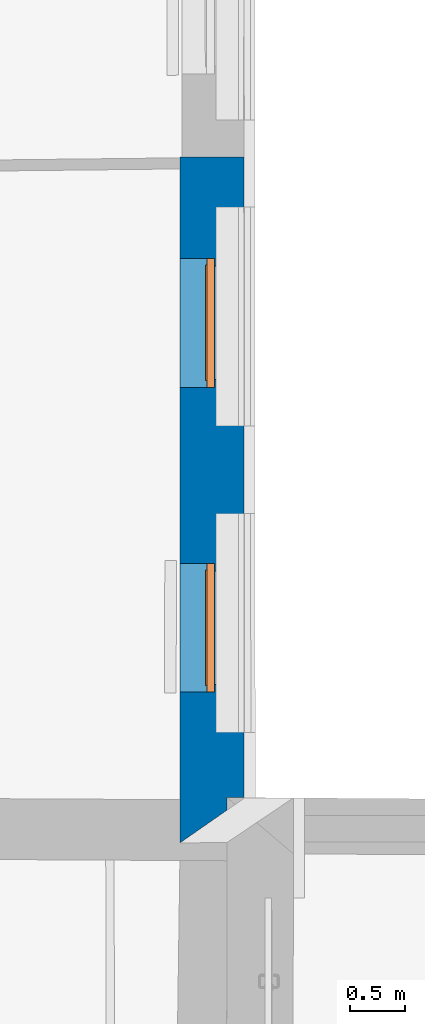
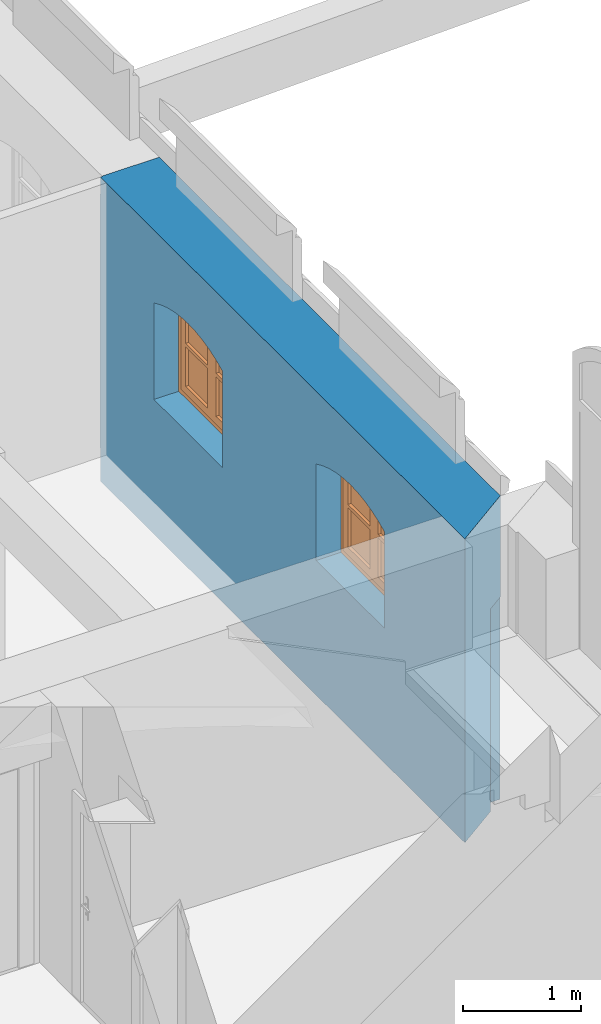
# One storey, part 69 of 196: 2 proxies, 1 wall, 2 openings.
"""IFC2X3 building model written with IfcOpenShell, lengths in metres."""

from ifc_helpers import new_model, entity, si_unit, converted_unit, derived_unit, money_unit, direction, frame, origin_with_axes, place, context, subcontext, project, spatial, polyline, outline, extrude, boolean, faceted_brep, source, transform, mapped, material, type_object, element, fill, save


model = new_model("IFC2X3")

# Units and contexts
model_context = context("Model", 3, precision=1e-05, world=origin_with_axes(), true_north=direction((0.0, 1.0)))
body_context = subcontext(model_context, "Body", "Model", "MODEL_VIEW")
ifc_project = project(units=[si_unit("LENGTHUNIT", "METRE"), si_unit("AREAUNIT", "SQUARE_METRE"), si_unit("VOLUMEUNIT", "CUBIC_METRE"), converted_unit("PLANEANGLEUNIT", "DEGREE", entity("IfcPlaneAngleMeasure", 0.0174532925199), si_unit("PLANEANGLEUNIT", "RADIAN"), dimensions=[0, 0, 0, 0, 0, 0, 0]), money_unit("EUR"), converted_unit("TIMEUNIT", "Year", entity("IfcTimeMeasure", 31556926.0), si_unit("TIMEUNIT", "SECOND"), dimensions=[0, 0, 1, 0, 0, 0, 0]), si_unit("MASSUNIT", "GRAM", prefix="KILO"), si_unit("THERMODYNAMICTEMPERATUREUNIT", "DEGREE_CELSIUS"), si_unit("LUMINOUSINTENSITYUNIT", "LUMEN"), si_unit("ENERGYUNIT", "JOULE", prefix="MEGA"), derived_unit("THERMALCONDUCTANCEUNIT", [(si_unit("POWERUNIT", "WATT"), 1), (si_unit("LENGTHUNIT", "METRE"), -1), (si_unit("THERMODYNAMICTEMPERATUREUNIT", "KELVIN"), -1)]), derived_unit("SPECIFICHEATCAPACITYUNIT", [(si_unit("ENERGYUNIT", "JOULE"), 1), (si_unit("MASSUNIT", "GRAM", prefix="KILO"), -1), (si_unit("THERMODYNAMICTEMPERATUREUNIT", "KELVIN"), -1)]), derived_unit("MASSDENSITYUNIT", [(si_unit("MASSUNIT", "GRAM", prefix="KILO"), 1), (si_unit("VOLUMEUNIT", "CUBIC_METRE"), -1)])], contexts=[model_context])

# Site, building, storey
site_placement = place(None, origin_with_axes())
site = spatial("IfcSite", under=ifc_project, at=site_placement, Name="Gelände", CompositionType="ELEMENT")
building_placement = place(site_placement, origin_with_axes())
building = spatial("IfcBuilding", under=site, at=building_placement, Name="Gebäude", CompositionType="ELEMENT")
storey_placement = place(building_placement, frame((0.0, 0.0, -3.0), z_axis=(0.0, 0.0, 1.0), x_axis=(1.0, 0.0, 0.0)))
storey = spatial("IfcBuildingStorey", under=building, at=storey_placement, Name="KELLERGESCHOSS", CompositionType="ELEMENT", Elevation=-3.0)

# Wall, openings, proxies
ifc_material = material(Name="05_ALLGEMEIN - TRAGENDE BAUTEILE")
wall_type = type_object("IfcWallType", Name="05_ALLGEMEIN - TRAGENDE BAUTEILE 580", PredefinedType="ELEMENTEDWALL")
wall_placement = place(storey_placement, frame((31.6770990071, 19.8019123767, -0.36), z_axis=(0.0, 0.0, 1.0), x_axis=(-0.000336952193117, 0.999999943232, 0.0)))
wall = element("IfcWall", 1, at=wall_placement, inside=storey, type_object=wall_type, material=ifc_material, Name="Wand-038", ObjectType="ELEMENTEDWALL", context=body_context, shape_type="CSG", body=[
    boolean("DIFFERENCE", boolean("DIFFERENCE", boolean("DIFFERENCE", extrude(outline(polyline([(-0.402913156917, 0.0), (5.78764100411, 0.0), (5.78764100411, 0.58), (-0.402913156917, 0.58), (-0.402913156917, 0.0)])), origin_with_axes(), (0.0, 0.0, 1.0), 3.15), faceted_brep([(5.78764100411, 0.560000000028, 0.34), (5.78764100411, 0.560000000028, 0.0), (5.78764100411, 0.58, 0.0), (5.78764100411, 0.58, 0.34), (5.78153003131, 0.559999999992, 0.34), (5.78153003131, 0.559999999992, 0.0), (5.78131178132, 0.58, 0.0), (5.78131178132, 0.58, 0.34)], [[[0, 1, 2, 3]], [[1, 0, 4, 5]], [[5, 6, 2, 1]], [[7, 3, 2, 6]], [[0, 3, 7, 4]], [[6, 5, 4, 7]]])), faceted_brep([(5.78131178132, 0.58, 3.15), (5.78153003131, 0.559999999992, 3.15), (5.78764100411, 0.559999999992, 3.15), (5.78764100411, 0.58, 3.15), (5.78131178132, 0.58, 2.97), (5.78153003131, 0.559999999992, 2.97), (5.78764100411, 0.559999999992, 2.97), (5.78764100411, 0.58, 2.97)], [[[0, 1, 2, 3]], [[1, 0, 4, 5]], [[6, 2, 1, 5]], [[6, 7, 3, 2]], [[4, 0, 3, 7]], [[7, 6, 5, 4]]])), faceted_brep([(0.0, 0.0, 2.1), (0.0, 0.0, 3.15), (-0.402913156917, 0.0, 3.15), (-0.402913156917, 0.0, 0.0), (0.00546026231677, 0.0, 0.0), (0.00546026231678, 0.0, 2.1), (-0.402913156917, 0.58, 3.15), (-0.10869698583, 0.156471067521, 2.1), (-0.10869698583, 0.156471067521, 0.0), (-0.402913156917, 0.58, 0.0), (0.00660056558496, 0.156344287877, 0.0), (0.00660056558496, 0.156344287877, 2.1), (-0.000783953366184, 0.156352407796, 2.1)], [[[0, 1, 2, 3, 4, 5]], [[6, 1, 0, 7, 8, 9]], [[1, 6, 2]], [[6, 9, 3, 2]], [[10, 4, 3, 9, 8]], [[5, 4, 10, 11]], [[0, 5, 11, 12, 7]], [[10, 8, 7, 12, 11]]])),
])
opening_1_placement = place(wall_placement, frame((1.5391521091, 0.0, 1.39579666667), z_axis=(0.0, 0.0, 1.0), x_axis=(1.0, 0.0, 0.0)))
opening_1 = element("IfcOpeningElement", 2, at=opening_1_placement, cuts=wall, Name="Fenster-015", context=body_context, shape_type="SweptSolid", body=[
    extrude(outline(polyline([(0.581905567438, 0.0), (0.581905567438, 1.0), (0.471737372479, 1.04926610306), (0.357452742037, 1.08803726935), (0.240048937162, 1.11597517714), (0.120550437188, 1.13283603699), (0.0, 1.13847271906), (-0.120550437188, 1.13283603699), (-0.240048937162, 1.11597517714), (-0.357452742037, 1.08803726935), (-0.471737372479, 1.04926610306), (-0.581905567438, 1.0), (-0.581905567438, 0.0), (0.581905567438, 0.0)])), frame((0.0, 0.266646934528, 0.0), z_axis=(0.0, -1.0, 0.0), x_axis=(1.0, 0.0, 0.0)), (0.0, 0.0, -1.0), 0.893353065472),
    extrude(outline(polyline([(-0.511905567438, 0.0), (-0.511905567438, -0.956074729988), (-0.389248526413, -1.00481559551), (-0.262049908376, -1.04004247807), (-0.131793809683, -1.0613443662), (0.0, -1.06847271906), (0.131793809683, -1.0613443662), (0.262049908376, -1.04004247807), (0.389248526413, -1.00481559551), (0.511905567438, -0.956074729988), (0.511905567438, 0.0), (-0.511905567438, 0.0)])), frame((0.0, 0.266646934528, 0.0), z_axis=(0.0, 1.0, 0.0), x_axis=(1.0, 0.0, 0.0)), (0.0, 0.0, -1.0), 0.846646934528),
])
opening_2_placement = place(wall_placement, frame((4.29162690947, 0.0, 1.39579666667), z_axis=(0.0, 0.0, 1.0), x_axis=(1.0, 0.0, 0.0)))
opening_2 = element("IfcOpeningElement", 3, at=opening_2_placement, cuts=wall, Name="Fenster-015", context=body_context, shape_type="SweptSolid", body=[
    extrude(outline(polyline([(0.581905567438, 0.0), (0.581905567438, 1.0), (0.471737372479, 1.04926610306), (0.357452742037, 1.08803726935), (0.240048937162, 1.11597517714), (0.120550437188, 1.13283603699), (0.0, 1.13847271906), (-0.120550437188, 1.13283603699), (-0.240048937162, 1.11597517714), (-0.357452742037, 1.08803726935), (-0.471737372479, 1.04926610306), (-0.581905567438, 1.0), (-0.581905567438, 0.0), (0.581905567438, 0.0)])), frame((0.0, 0.266646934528, 0.0), z_axis=(0.0, -1.0, 0.0), x_axis=(1.0, 0.0, 0.0)), (0.0, 0.0, -1.0), 0.893353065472),
    extrude(outline(polyline([(-0.511905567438, 0.0), (-0.511905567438, -0.956074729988), (-0.389248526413, -1.00481559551), (-0.262049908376, -1.04004247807), (-0.131793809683, -1.0613443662), (0.0, -1.06847271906), (0.131793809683, -1.0613443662), (0.262049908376, -1.04004247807), (0.389248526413, -1.00481559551), (0.511905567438, -0.956074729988), (0.511905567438, 0.0), (-0.511905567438, 0.0)])), frame((0.0, 0.266646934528, 0.0), z_axis=(0.0, 1.0, 0.0), x_axis=(1.0, 0.0, 0.0)), (0.0, 0.0, -1.0), 0.846646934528),
])
building_element_proxy_type = type_object("IfcBuildingElementProxyType", Name="F Segment-Abschluss 2-Fl 25", PredefinedType="NOTDEFINED")
shared_shape = source(origin_with_axes(), body_context, "Body", "Brep", [
    faceted_brep([(-0.581905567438, -0.07, 0.0), (-0.581905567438, -0.035, 0.0), (-0.501905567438, -0.035, 0.08), (-0.501905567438, -0.07, 0.08), (-0.581905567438, -0.07, 1.0), (-0.581905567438, -0.035, 1.0), (-0.501905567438, -0.035, 0.949656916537), (-0.501905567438, -0.07, 0.949656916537)], [[[0, 1, 2, 3]], [[4, 5, 1, 0]], [[1, 5, 6, 2]], [[3, 2, 6, 7]], [[0, 3, 7, 4]], [[7, 6, 5, 4]]]),
    faceted_brep([(0.581905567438, -0.07, 0.0), (0.501905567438, -0.07, 0.08), (0.501905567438, -0.035, 0.08), (0.581905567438, -0.035, 0.0), (0.581905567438, -0.07, 1.0), (0.501905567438, -0.07, 0.949656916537), (0.501905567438, -0.035, 0.949656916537), (0.581905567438, -0.035, 1.0)], [[[0, 1, 2, 3]], [[0, 4, 5, 1]], [[1, 5, 6, 2]], [[3, 2, 6, 7]], [[4, 0, 3, 7]], [[5, 4, 7, 6]]]),
    faceted_brep([(-0.581905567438, -0.07, 0.0), (-0.581905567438, -0.035, 0.0), (0.581905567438, -0.035, 0.0), (0.581905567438, -0.07, 0.0), (-0.501905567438, -0.07, 0.08), (-0.501905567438, -0.035, 0.08), (0.501905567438, -0.035, 0.08), (0.501905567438, -0.07, 0.08)], [[[0, 1, 2, 3]], [[4, 5, 1, 0]], [[1, 5, 6, 2]], [[3, 2, 6, 7]], [[0, 3, 7, 4]], [[7, 6, 5, 4]]]),
    faceted_brep([(0.502005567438, -0.07, 0.949656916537), (0.502005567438, -0.035, 0.949656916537), (0.581905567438, -0.035, 1.0), (0.581905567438, -0.07, 1.0), (0.501905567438, -0.07, 0.949656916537), (0.501905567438, -0.035, 0.949656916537), (0.381516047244, -0.035, 0.996854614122), (0.25678302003, -0.035, 1.03095639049), (0.129126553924, -0.035, 1.05157400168), (0.0, -0.035, 1.05847271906), (0.0, -0.035, 1.05857271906), (0.0, -0.035, 1.13847271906), (0.120550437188, -0.035, 1.13283603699), (0.240048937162, -0.035, 1.11597517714), (0.357452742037, -0.035, 1.08803726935), (0.471737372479, -0.035, 1.04926610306), (0.471737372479, -0.07, 1.04926610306), (0.357452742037, -0.07, 1.08803726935), (0.240048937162, -0.07, 1.11597517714), (0.120550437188, -0.07, 1.13283603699), (0.0, -0.07, 1.13847271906), (0.0, -0.07, 1.05857271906), (0.0, -0.07, 1.05847271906), (0.129126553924, -0.07, 1.05157400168), (0.25678302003, -0.07, 1.03095639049), (0.381516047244, -0.07, 0.996854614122)], [[[0, 1, 2, 3]], [[4, 5, 1, 0]], [[1, 5, 6, 7, 8, 9, 10, 11, 12, 13, 14, 15, 2]], [[3, 2, 15, 16]], [[0, 3, 16, 17, 18, 19, 20, 21, 22, 23, 24, 25, 4]], [[25, 6, 5, 4]], [[24, 7, 6, 25]], [[23, 8, 7, 24]], [[22, 9, 8, 23]], [[21, 10, 9, 22]], [[20, 11, 10, 21]], [[19, 12, 11, 20]], [[18, 13, 12, 19]], [[17, 14, 13, 18]], [[16, 15, 14, 17]]]),
    faceted_brep([(-0.502005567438, -0.07, 0.949656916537), (-0.581905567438, -0.07, 1.0), (-0.581905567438, -0.035, 1.0), (-0.502005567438, -0.035, 0.949656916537), (-0.501905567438, -0.07, 0.949656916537), (-0.381516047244, -0.07, 0.996854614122), (-0.25678302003, -0.07, 1.03095639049), (-0.129126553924, -0.07, 1.05157400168), (0.0, -0.07, 1.05847271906), (0.0, -0.07, 1.05857271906), (0.0, -0.07, 1.13847271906), (-0.120550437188, -0.07, 1.13283603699), (-0.240048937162, -0.07, 1.11597517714), (-0.357452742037, -0.07, 1.08803726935), (-0.471737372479, -0.07, 1.04926610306), (-0.471737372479, -0.035, 1.04926610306), (-0.357452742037, -0.035, 1.08803726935), (-0.240048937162, -0.035, 1.11597517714), (-0.120550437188, -0.035, 1.13283603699), (0.0, -0.035, 1.13847271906), (0.0, -0.035, 1.05857271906), (0.0, -0.035, 1.05847271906), (-0.129126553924, -0.035, 1.05157400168), (-0.25678302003, -0.035, 1.03095639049), (-0.381516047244, -0.035, 0.996854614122), (-0.501905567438, -0.035, 0.949656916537)], [[[0, 1, 2, 3]], [[0, 4, 5, 6, 7, 8, 9, 10, 11, 12, 13, 14, 1]], [[1, 14, 15, 2]], [[3, 2, 15, 16, 17, 18, 19, 20, 21, 22, 23, 24, 25]], [[4, 0, 3, 25]], [[5, 4, 25, 24]], [[6, 5, 24, 23]], [[7, 6, 23, 22]], [[8, 7, 22, 21]], [[9, 8, 21, 20]], [[10, 9, 20, 19]], [[11, 10, 19, 18]], [[12, 11, 18, 17]], [[13, 12, 17, 16]], [[14, 13, 16, 15]]]),
    faceted_brep([(-0.581905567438, -0.035, 0.0), (-0.581905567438, 0.0, 0.0), (-0.501905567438, 0.0, 0.08), (-0.501905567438, -0.035, 0.08), (-0.581905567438, -0.035, 1.0), (-0.581905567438, 0.0, 1.0), (-0.501905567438, 0.0, 0.949656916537), (-0.501905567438, -0.035, 0.949656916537)], [[[0, 1, 2, 3]], [[4, 5, 1, 0]], [[1, 5, 6, 2]], [[3, 2, 6, 7]], [[0, 3, 7, 4]], [[7, 6, 5, 4]]]),
    faceted_brep([(0.581905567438, -0.035, 0.0), (0.501905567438, -0.035, 0.08), (0.501905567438, 0.0, 0.08), (0.581905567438, 0.0, 0.0), (0.581905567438, -0.035, 1.0), (0.501905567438, -0.035, 0.949656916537), (0.501905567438, 0.0, 0.949656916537), (0.581905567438, 0.0, 1.0)], [[[0, 1, 2, 3]], [[0, 4, 5, 1]], [[1, 5, 6, 2]], [[3, 2, 6, 7]], [[4, 0, 3, 7]], [[5, 4, 7, 6]]]),
    faceted_brep([(-0.581905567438, -0.035, 0.0), (-0.581905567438, 0.0, 0.0), (0.581905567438, 0.0, 0.0), (0.581905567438, -0.035, 0.0), (-0.501905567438, -0.035, 0.08), (-0.501905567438, 0.0, 0.08), (0.501905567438, 0.0, 0.08), (0.501905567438, -0.035, 0.08)], [[[0, 1, 2, 3]], [[4, 5, 1, 0]], [[1, 5, 6, 2]], [[3, 2, 6, 7]], [[0, 3, 7, 4]], [[7, 6, 5, 4]]]),
    faceted_brep([(0.502005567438, -0.035, 0.949656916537), (0.502005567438, 0.0, 0.949656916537), (0.581905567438, 0.0, 1.0), (0.581905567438, -0.035, 1.0), (0.501905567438, -0.035, 0.949656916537), (0.501905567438, 0.0, 0.949656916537), (0.381516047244, 0.0, 0.996854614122), (0.25678302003, 0.0, 1.03095639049), (0.129126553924, 0.0, 1.05157400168), (0.0, 0.0, 1.05847271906), (0.0, 0.0, 1.05857271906), (0.0, 0.0, 1.13847271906), (0.120550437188, 0.0, 1.13283603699), (0.240048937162, 0.0, 1.11597517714), (0.357452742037, 0.0, 1.08803726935), (0.471737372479, 0.0, 1.04926610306), (0.471737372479, -0.035, 1.04926610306), (0.357452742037, -0.035, 1.08803726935), (0.240048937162, -0.035, 1.11597517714), (0.120550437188, -0.035, 1.13283603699), (0.0, -0.035, 1.13847271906), (0.0, -0.035, 1.05857271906), (0.0, -0.035, 1.05847271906), (0.129126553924, -0.035, 1.05157400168), (0.25678302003, -0.035, 1.03095639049), (0.381516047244, -0.035, 0.996854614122)], [[[0, 1, 2, 3]], [[4, 5, 1, 0]], [[1, 5, 6, 7, 8, 9, 10, 11, 12, 13, 14, 15, 2]], [[3, 2, 15, 16]], [[0, 3, 16, 17, 18, 19, 20, 21, 22, 23, 24, 25, 4]], [[25, 6, 5, 4]], [[24, 7, 6, 25]], [[23, 8, 7, 24]], [[22, 9, 8, 23]], [[21, 10, 9, 22]], [[20, 11, 10, 21]], [[19, 12, 11, 20]], [[18, 13, 12, 19]], [[17, 14, 13, 18]], [[16, 15, 14, 17]]]),
    faceted_brep([(-0.502005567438, -0.035, 0.949656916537), (-0.581905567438, -0.035, 1.0), (-0.581905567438, 0.0, 1.0), (-0.502005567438, 0.0, 0.949656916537), (-0.501905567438, -0.035, 0.949656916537), (-0.381516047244, -0.035, 0.996854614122), (-0.25678302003, -0.035, 1.03095639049), (-0.129126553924, -0.035, 1.05157400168), (0.0, -0.035, 1.05847271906), (0.0, -0.035, 1.05857271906), (0.0, -0.035, 1.13847271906), (-0.120550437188, -0.035, 1.13283603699), (-0.240048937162, -0.035, 1.11597517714), (-0.357452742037, -0.035, 1.08803726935), (-0.471737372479, -0.035, 1.04926610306), (-0.471737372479, 0.0, 1.04926610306), (-0.357452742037, 0.0, 1.08803726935), (-0.240048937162, 0.0, 1.11597517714), (-0.120550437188, 0.0, 1.13283603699), (0.0, 0.0, 1.13847271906), (0.0, 0.0, 1.05857271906), (0.0, 0.0, 1.05847271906), (-0.129126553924, 0.0, 1.05157400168), (-0.25678302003, 0.0, 1.03095639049), (-0.381516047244, 0.0, 0.996854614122), (-0.501905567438, 0.0, 0.949656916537)], [[[0, 1, 2, 3]], [[0, 4, 5, 6, 7, 8, 9, 10, 11, 12, 13, 14, 1]], [[1, 14, 15, 2]], [[3, 2, 15, 16, 17, 18, 19, 20, 21, 22, 23, 24, 25]], [[4, 0, 3, 25]], [[5, 4, 25, 24]], [[6, 5, 24, 23]], [[7, 6, 23, 22]], [[8, 7, 22, 21]], [[9, 8, 21, 20]], [[10, 9, 20, 19]], [[11, 10, 19, 18]], [[12, 11, 18, 17]], [[13, 12, 17, 16]], [[14, 13, 16, 15]]]),
    faceted_brep([(-0.521905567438, 0.0, 0.06), (-0.521905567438, 0.013, 0.06), (-0.441905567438, 0.013, 0.14), (-0.441905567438, 0.0, 0.14), (-0.521905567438, 0.0, 0.962455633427), (-0.521905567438, 0.013, 0.962455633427), (-0.441905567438, 0.013, 0.910337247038), (-0.441905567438, 0.0, 0.910337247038)], [[[0, 1, 2, 3]], [[4, 5, 1, 0]], [[1, 5, 6, 2]], [[3, 2, 6, 7]], [[0, 3, 7, 4]], [[7, 6, 5, 4]]]),
    faceted_brep([(-0.01, 0.0, 0.06), (-0.01, 0.013, 0.06), (-0.01, 0.013, 1.07843213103), (-0.01, 0.0, 1.07843213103), (-0.07, 0.0, 0.14), (-0.07, 0.013, 0.14), (-0.07, 0.013, 0.99634385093), (-0.07, 0.0, 0.99634385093)], [[[0, 1, 2, 3]], [[4, 5, 1, 0]], [[1, 5, 6, 2]], [[3, 2, 6, 7]], [[0, 3, 7, 4]], [[7, 6, 5, 4]]]),
    faceted_brep([(-0.521905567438, 0.0, 0.06), (-0.521905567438, 0.013, 0.06), (-0.501905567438, 0.013, 0.06), (-0.501905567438, 0.0, 0.06), (-0.441905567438, 0.0, 0.14), (-0.441905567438, 0.013, 0.14), (-0.07, 0.013, 0.14), (-0.01, 0.013, 0.06), (-0.01, 0.0, 0.06), (-0.07, 0.0, 0.14)], [[[0, 1, 2, 3]], [[4, 5, 1, 0]], [[1, 5, 6, 7, 2]], [[3, 2, 7, 8]], [[0, 3, 8, 9, 4]], [[9, 6, 5, 4]], [[8, 7, 6, 9]]]),
    faceted_brep([(-0.501905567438, 0.0, 0.949656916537), (-0.501905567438, 0.013, 0.949656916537), (-0.441905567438, 0.013, 0.910337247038), (-0.441905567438, 0.0, 0.910337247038), (-0.521905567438, 0.0, 0.962455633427), (-0.521905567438, 0.013, 0.962455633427), (-0.424276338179, 0.013, 1.0031058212), (-0.323520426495, 0.013, 1.0352329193), (-0.220380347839, 0.013, 1.05860016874), (-0.115616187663, 0.013, 1.07303536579), (-0.01, 0.013, 1.07843213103), (-0.07, 0.013, 0.99634385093), (-0.165342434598, 0.013, 0.98654453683), (-0.259540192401, 0.013, 0.968853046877), (-0.351941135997, 0.013, 0.943391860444), (-0.351941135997, 0.0, 0.943391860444), (-0.259540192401, 0.0, 0.968853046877), (-0.165342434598, 0.0, 0.98654453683), (-0.07, 0.0, 0.99634385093), (-0.01, 0.0, 1.07843213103), (-0.115616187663, 0.0, 1.07303536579), (-0.220380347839, 0.0, 1.05860016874), (-0.323520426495, 0.0, 1.0352329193), (-0.424276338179, 0.0, 1.0031058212)], [[[0, 1, 2, 3]], [[4, 5, 1, 0]], [[1, 5, 6, 7, 8, 9, 10, 11, 12, 13, 14, 2]], [[3, 2, 14, 15]], [[0, 3, 15, 16, 17, 18, 19, 20, 21, 22, 23, 4]], [[23, 6, 5, 4]], [[22, 7, 6, 23]], [[21, 8, 7, 22]], [[20, 9, 8, 21]], [[19, 10, 9, 20]], [[18, 11, 10, 19]], [[17, 12, 11, 18]], [[16, 13, 12, 17]], [[15, 14, 13, 16]]]),
    faceted_brep([(-0.501905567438, -0.057, 0.08), (-0.501905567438, 0.0, 0.08), (-0.441905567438, 0.0, 0.14), (-0.441905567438, -0.057, 0.14), (-0.501905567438, -0.057, 0.949656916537), (-0.501905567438, 0.0, 0.949656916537), (-0.441905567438, 0.0, 0.910337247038), (-0.441905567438, -0.057, 0.910337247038)], [[[0, 1, 2, 3]], [[4, 5, 1, 0]], [[1, 5, 6, 2]], [[3, 2, 6, 7]], [[0, 3, 7, 4]], [[7, 6, 5, 4]]]),
    faceted_brep([(0.01, -0.057, 0.08), (0.01, 0.0, 0.08), (0.01, 0.0, 1.05843146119), (0.01, -0.057, 1.05843146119), (-0.07, -0.057, 0.14), (-0.07, 0.0, 0.14), (-0.07, 0.0, 0.99634385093), (-0.07, -0.057, 0.99634385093)], [[[0, 1, 2, 3]], [[4, 5, 1, 0]], [[1, 5, 6, 2]], [[3, 2, 6, 7]], [[0, 3, 7, 4]], [[7, 6, 5, 4]]]),
    faceted_brep([(-0.501905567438, -0.057, 0.08), (-0.501905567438, 0.0, 0.08), (-0.01, 0.0, 0.08), (-0.01, -0.057, 0.08), (-0.441905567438, -0.057, 0.14), (-0.441905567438, 0.0, 0.14), (-0.07, 0.0, 0.14), (0.01, 0.0, 0.08), (0.01, -0.057, 0.08), (-0.07, -0.057, 0.14)], [[[0, 1, 2, 3]], [[4, 5, 1, 0]], [[1, 5, 6, 7, 2]], [[3, 2, 7, 8]], [[0, 3, 8, 9, 4]], [[9, 6, 5, 4]], [[8, 7, 6, 9]]]),
    faceted_brep([(-0.501905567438, -0.057, 0.949656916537), (-0.501905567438, 0.0, 0.949656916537), (-0.441905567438, 0.0, 0.910337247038), (-0.441905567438, -0.057, 0.910337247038), (-0.4041010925, -0.057, 0.989116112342), (-0.4041010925, 0.0, 0.989116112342), (-0.303236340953, 0.0, 1.01992269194), (-0.20007516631, 0.0, 1.04184335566), (-0.0953988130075, 0.0, 1.05471209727), (0.01, 0.0, 1.05843146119), (-0.07, 0.0, 0.99634385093), (-0.165342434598, 0.0, 0.98654453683), (-0.259540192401, 0.0, 0.968853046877), (-0.351941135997, 0.0, 0.943391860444), (-0.351941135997, -0.057, 0.943391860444), (-0.259540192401, -0.057, 0.968853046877), (-0.165342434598, -0.057, 0.98654453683), (-0.07, -0.057, 0.99634385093), (0.01, -0.057, 1.05843146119), (-0.0953988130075, -0.057, 1.05471209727), (-0.20007516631, -0.057, 1.04184335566), (-0.303236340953, -0.057, 1.01992269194)], [[[0, 1, 2, 3]], [[4, 5, 1, 0]], [[1, 5, 6, 7, 8, 9, 10, 11, 12, 13, 2]], [[3, 2, 13, 14]], [[0, 3, 14, 15, 16, 17, 18, 19, 20, 21, 4]], [[21, 6, 5, 4]], [[20, 7, 6, 21]], [[19, 8, 7, 20]], [[18, 9, 8, 19]], [[17, 10, 9, 18]], [[16, 11, 10, 17]], [[15, 12, 11, 16]], [[14, 13, 12, 15]]]),
    faceted_brep([(-0.441905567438, -0.027, 0.14), (-0.441905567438, -0.017, 0.14), (-0.07, -0.017, 0.14), (-0.07, -0.027, 0.14), (-0.441905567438, -0.027, 0.910337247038), (-0.441905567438, -0.017, 0.910337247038), (-0.351941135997, -0.017, 0.943391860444), (-0.259540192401, -0.017, 0.968853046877), (-0.165342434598, -0.017, 0.98654453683), (-0.07, -0.017, 0.99634385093), (-0.07, -0.027, 0.99634385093), (-0.165342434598, -0.027, 0.98654453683), (-0.259540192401, -0.027, 0.968853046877), (-0.351941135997, -0.027, 0.943391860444)], [[[0, 1, 2, 3]], [[4, 5, 1, 0]], [[1, 5, 6, 7, 8, 9, 2]], [[3, 2, 9, 10]], [[0, 3, 10, 11, 12, 13, 4]], [[13, 6, 5, 4]], [[12, 7, 6, 13]], [[11, 8, 7, 12]], [[10, 9, 8, 11]]]),
    faceted_brep([(-0.441905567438, -0.057, 0.550671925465), (-0.441905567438, -0.022, 0.550671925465), (-0.07, -0.022, 0.550671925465), (-0.07, -0.057, 0.550671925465), (-0.441905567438, -0.057, 0.585671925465), (-0.441905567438, -0.022, 0.585671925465), (-0.07, -0.022, 0.585671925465), (-0.07, -0.057, 0.585671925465)], [[[0, 1, 2, 3]], [[4, 5, 1, 0]], [[1, 5, 6, 2]], [[3, 2, 6, 7]], [[0, 3, 7, 4]], [[7, 6, 5, 4]]]),
    faceted_brep([(-0.441905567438, -0.022, 0.550671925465), (-0.441905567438, 0.013, 0.550671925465), (-0.07, 0.013, 0.550671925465), (-0.07, -0.022, 0.550671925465), (-0.441905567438, -0.022, 0.585671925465), (-0.441905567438, 0.013, 0.585671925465), (-0.07, 0.013, 0.585671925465), (-0.07, -0.022, 0.585671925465)], [[[0, 1, 2, 3]], [[4, 5, 1, 0]], [[1, 5, 6, 2]], [[3, 2, 6, 7]], [[0, 3, 7, 4]], [[7, 6, 5, 4]]]),
    faceted_brep([(0.521905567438, 0.0, 0.06), (0.441905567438, 0.0, 0.14), (0.441905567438, 0.013, 0.14), (0.521905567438, 0.013, 0.06), (0.521905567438, 0.0, 0.962455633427), (0.441905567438, 0.0, 0.910337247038), (0.441905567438, 0.013, 0.910337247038), (0.521905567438, 0.013, 0.962455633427)], [[[0, 1, 2, 3]], [[0, 4, 5, 1]], [[1, 5, 6, 2]], [[3, 2, 6, 7]], [[4, 0, 3, 7]], [[5, 4, 7, 6]]]),
    faceted_brep([(-0.01, 0.0, 0.06), (-0.01, 0.0, 1.07843213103), (-0.01, 0.013, 1.07843213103), (-0.01, 0.013, 0.06), (0.07, 0.0, 0.14), (0.07, 0.0, 0.99634385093), (0.07, 0.013, 0.99634385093), (0.07, 0.013, 0.14)], [[[0, 1, 2, 3]], [[0, 4, 5, 1]], [[1, 5, 6, 2]], [[3, 2, 6, 7]], [[4, 0, 3, 7]], [[5, 4, 7, 6]]]),
    faceted_brep([(0.521905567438, 0.0, 0.06), (0.501905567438, 0.0, 0.06), (0.501905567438, 0.013, 0.06), (0.521905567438, 0.013, 0.06), (0.441905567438, 0.0, 0.14), (0.07, 0.0, 0.14), (-0.01, 0.0, 0.06), (0.01, 0.0, 0.06), (0.01, 0.013, 0.06), (-0.01, 0.013, 0.06), (0.07, 0.013, 0.14), (0.441905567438, 0.013, 0.14)], [[[0, 1, 2, 3]], [[0, 4, 5, 6, 7, 1]], [[1, 7, 8, 2]], [[3, 2, 8, 9, 10, 11]], [[4, 0, 3, 11]], [[5, 4, 11, 10]], [[6, 5, 10, 9]], [[7, 6, 9, 8]]]),
    faceted_brep([(0.501905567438, 0.0, 0.949656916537), (0.441905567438, 0.0, 0.910337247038), (0.441905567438, 0.013, 0.910337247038), (0.501905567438, 0.013, 0.949656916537), (0.521905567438, 0.0, 0.962455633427), (0.420518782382, 0.0, 1.0044773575), (0.315794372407, 0.0, 1.0373087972), (0.208563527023, 0.0, 1.06068937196), (0.0996773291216, 0.0, 1.07443351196), (-0.01, 0.0, 1.07843213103), (0.07, 0.0, 0.99634385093), (0.165342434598, 0.0, 0.98654453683), (0.259540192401, 0.0, 0.968853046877), (0.351941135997, 0.0, 0.943391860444), (0.351941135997, 0.013, 0.943391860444), (0.259540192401, 0.013, 0.968853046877), (0.165342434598, 0.013, 0.98654453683), (0.07, 0.013, 0.99634385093), (-0.01, 0.013, 1.07843213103), (0.0996773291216, 0.013, 1.07443351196), (0.208563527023, 0.013, 1.06068937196), (0.315794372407, 0.013, 1.0373087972), (0.420518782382, 0.013, 1.0044773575), (0.521905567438, 0.013, 0.962455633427)], [[[0, 1, 2, 3]], [[0, 4, 5, 6, 7, 8, 9, 10, 11, 12, 13, 1]], [[1, 13, 14, 2]], [[3, 2, 14, 15, 16, 17, 18, 19, 20, 21, 22, 23]], [[4, 0, 3, 23]], [[5, 4, 23, 22]], [[6, 5, 22, 21]], [[7, 6, 21, 20]], [[8, 7, 20, 19]], [[9, 8, 19, 18]], [[10, 9, 18, 17]], [[11, 10, 17, 16]], [[12, 11, 16, 15]], [[13, 12, 15, 14]]]),
    faceted_brep([(0.501905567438, -0.057, 0.08), (0.441905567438, -0.057, 0.14), (0.441905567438, 0.0, 0.14), (0.501905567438, 0.0, 0.08), (0.501905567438, -0.057, 0.949656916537), (0.441905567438, -0.057, 0.910337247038), (0.441905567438, 0.0, 0.910337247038), (0.501905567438, 0.0, 0.949656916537)], [[[0, 1, 2, 3]], [[0, 4, 5, 1]], [[1, 5, 6, 2]], [[3, 2, 6, 7]], [[4, 0, 3, 7]], [[5, 4, 7, 6]]]),
    faceted_brep([(0.01, -0.057, 0.08), (0.01, -0.057, 1.05843146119), (0.01, 0.0, 1.05843146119), (0.01, 0.0, 0.08), (0.07, -0.057, 0.14), (0.07, -0.057, 0.99634385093), (0.07, 0.0, 0.99634385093), (0.07, 0.0, 0.14)], [[[0, 1, 2, 3]], [[0, 4, 5, 1]], [[1, 5, 6, 2]], [[3, 2, 6, 7]], [[4, 0, 3, 7]], [[5, 4, 7, 6]]]),
    faceted_brep([(0.501905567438, -0.057, 0.08), (0.01, -0.057, 0.08), (0.01, 0.0, 0.08), (0.501905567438, 0.0, 0.08), (0.441905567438, -0.057, 0.14), (0.07, -0.057, 0.14), (0.07, 0.0, 0.14), (0.441905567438, 0.0, 0.14)], [[[0, 1, 2, 3]], [[0, 4, 5, 1]], [[1, 5, 6, 2]], [[3, 2, 6, 7]], [[4, 0, 3, 7]], [[5, 4, 7, 6]]]),
    faceted_brep([(0.501905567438, -0.057, 0.949656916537), (0.441905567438, -0.057, 0.910337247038), (0.441905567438, 0.0, 0.910337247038), (0.501905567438, 0.0, 0.949656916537), (0.407870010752, -0.057, 0.987776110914), (0.31097529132, -0.057, 1.01789541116), (0.211900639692, -0.057, 1.03980368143), (0.111340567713, -0.057, 1.05334734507), (0.01, -0.057, 1.05843146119), (0.07, -0.057, 0.99634385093), (0.165342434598, -0.057, 0.98654453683), (0.259540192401, -0.057, 0.968853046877), (0.351941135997, -0.057, 0.943391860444), (0.351941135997, 0.0, 0.943391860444), (0.259540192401, 0.0, 0.968853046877), (0.165342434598, 0.0, 0.98654453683), (0.07, 0.0, 0.99634385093), (0.01, 0.0, 1.05843146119), (0.111340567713, 0.0, 1.05334734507), (0.211900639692, 0.0, 1.03980368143), (0.31097529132, 0.0, 1.01789541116), (0.407870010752, 0.0, 0.987776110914)], [[[0, 1, 2, 3]], [[0, 4, 5, 6, 7, 8, 9, 10, 11, 12, 1]], [[1, 12, 13, 2]], [[3, 2, 13, 14, 15, 16, 17, 18, 19, 20, 21]], [[4, 0, 3, 21]], [[5, 4, 21, 20]], [[6, 5, 20, 19]], [[7, 6, 19, 18]], [[8, 7, 18, 17]], [[9, 8, 17, 16]], [[10, 9, 16, 15]], [[11, 10, 15, 14]], [[12, 11, 14, 13]]]),
    faceted_brep([(0.441905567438, -0.027, 0.14), (0.07, -0.027, 0.14), (0.07, -0.017, 0.14), (0.441905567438, -0.017, 0.14), (0.441905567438, -0.027, 0.910337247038), (0.351941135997, -0.027, 0.943391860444), (0.259540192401, -0.027, 0.968853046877), (0.165342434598, -0.027, 0.98654453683), (0.07, -0.027, 0.99634385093), (0.07, -0.017, 0.99634385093), (0.165342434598, -0.017, 0.98654453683), (0.259540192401, -0.017, 0.968853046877), (0.351941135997, -0.017, 0.943391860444), (0.441905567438, -0.017, 0.910337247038)], [[[0, 1, 2, 3]], [[0, 4, 5, 6, 7, 8, 1]], [[1, 8, 9, 2]], [[3, 2, 9, 10, 11, 12, 13]], [[4, 0, 3, 13]], [[5, 4, 13, 12]], [[6, 5, 12, 11]], [[7, 6, 11, 10]], [[8, 7, 10, 9]]]),
    faceted_brep([(0.441905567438, -0.057, 0.550671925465), (0.07, -0.057, 0.550671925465), (0.07, -0.022, 0.550671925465), (0.441905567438, -0.022, 0.550671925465), (0.441905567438, -0.057, 0.585671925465), (0.07, -0.057, 0.585671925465), (0.07, -0.022, 0.585671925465), (0.441905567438, -0.022, 0.585671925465)], [[[0, 1, 2, 3]], [[0, 4, 5, 1]], [[1, 5, 6, 2]], [[3, 2, 6, 7]], [[4, 0, 3, 7]], [[5, 4, 7, 6]]]),
    faceted_brep([(0.441905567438, -0.022, 0.550671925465), (0.07, -0.022, 0.550671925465), (0.07, 0.013, 0.550671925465), (0.441905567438, 0.013, 0.550671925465), (0.441905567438, -0.022, 0.585671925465), (0.07, -0.022, 0.585671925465), (0.07, 0.013, 0.585671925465), (0.441905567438, 0.013, 0.585671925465)], [[[0, 1, 2, 3]], [[0, 4, 5, 1]], [[1, 5, 6, 2]], [[3, 2, 6, 7]], [[4, 0, 3, 7]], [[5, 4, 7, 6]]]),
])
proxy_1_placement = place(opening_1_placement, frame((-0.581905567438, 0.0, 0.0), z_axis=(0.0, 0.0, 1.0), x_axis=(1.0, 0.0, 0.0)))
proxy_1 = element("IfcBuildingElementProxy", 4, at=proxy_1_placement, inside=storey, type_object=building_element_proxy_type, Name="Fenster-015", context=body_context, shape_type="MappedRepresentation", body=[
    mapped(shared_shape, transform((0.581905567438, 0.336646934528, 0.0))),
])
fill(opening_1, proxy_1)
proxy_2_placement = place(opening_2_placement, frame((-0.581905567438, 0.0, 0.0), z_axis=(0.0, 0.0, 1.0), x_axis=(1.0, 0.0, 0.0)))
proxy_2 = element("IfcBuildingElementProxy", 5, at=proxy_2_placement, inside=storey, type_object=building_element_proxy_type, Name="Fenster-015", context=body_context, shape_type="MappedRepresentation", body=[
    mapped(shared_shape, transform((0.581905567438, 0.336646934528, 0.0))),
])
fill(opening_2, proxy_2)

save(model, "model.ifc")
